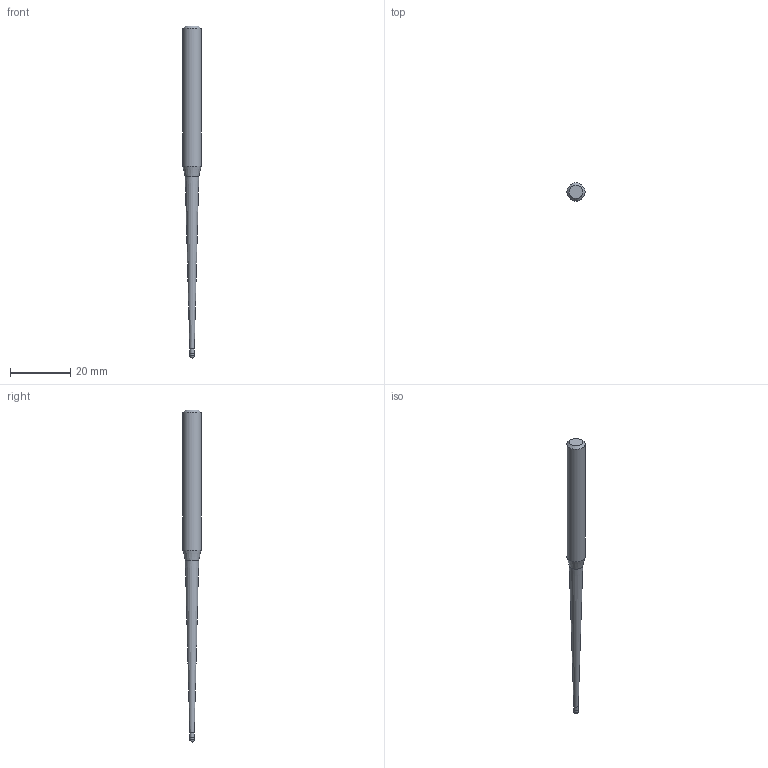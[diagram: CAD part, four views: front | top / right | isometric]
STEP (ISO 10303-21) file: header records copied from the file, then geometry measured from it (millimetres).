
FILE_DESCRIPTION((''),'2;1');
FILE_NAME('C:\Users\nsx150\AppData\Local\Temp\Mastercam 2021\SNAKH10GOD\TEMP.step','2021-10-21T13:32:57',(''),(''),'STEP Write','Mastercam 2021 ... CNC Software, Inc.','');
FILE_SCHEMA(('AUTOMOTIVE_DESIGN'));
Length unit declared in the file: millimetre
Products named in the file (1): None
Bounding box: 6 x 6 x 110 mm (x, y, z)
Volume: 1823.1 mm3; surface area: 1506.7 mm2
Topology: 2 solids, 2 shells, 10 faces, 16 edges, 9 vertices
Faces by surface type: plane 3, cylinder 3, cone 3, sphere 1
Full cylindrical faces by diameter (mm): 1.485 x1, 1.5 x1, 6 x1
Entity records: 232 total; most frequent: DIRECTION 40, CARTESIAN_POINT 28, AXIS2_PLACEMENT_3D 20, ORIENTED_EDGE 16, EDGE_LOOP 16, STYLED_ITEM 13, ADVANCED_FACE 10, FACE_BOUND 9
